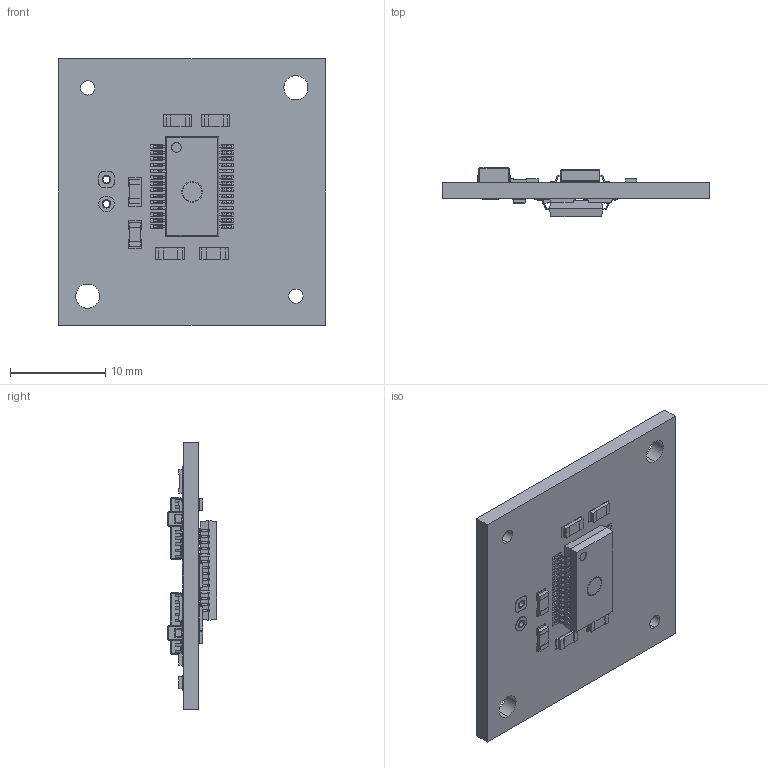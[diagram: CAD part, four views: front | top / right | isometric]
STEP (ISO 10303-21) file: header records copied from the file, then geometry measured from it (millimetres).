
FILE_DESCRIPTION (( 'STEP AP203' ), '1' );
FILE_NAME ('MODM111-3D.STEP', '2019-03-04T14:30:25', ( '' ), ( '' ), 'SwSTEP 2.0', 'SolidWorks 2016', '' );
FILE_SCHEMA (( 'CONFIG_CONTROL_DESIGN' ));
Products named in the file (1): MODM111-3D
Bounding box: 28 x 5.21 x 28 mm (x, y, z)
Volume: 1437.3 mm3; surface area: 2784.3 mm2
Topology: 205 solids, 205 shells, 2055 faces, 4720 edges, 3120 vertices
Faces by surface type: plane 1771, cylinder 174, bspline 106, cone 4
Entity records: 57103 total; most frequent: CARTESIAN_POINT 10796, ORIENTED_EDGE 9440, DIRECTION 9042, EDGE_CURVE 4720, VECTOR 4006, LINE 4006, VERTEX_POINT 3120, AXIS2_PLACEMENT_3D 2518
